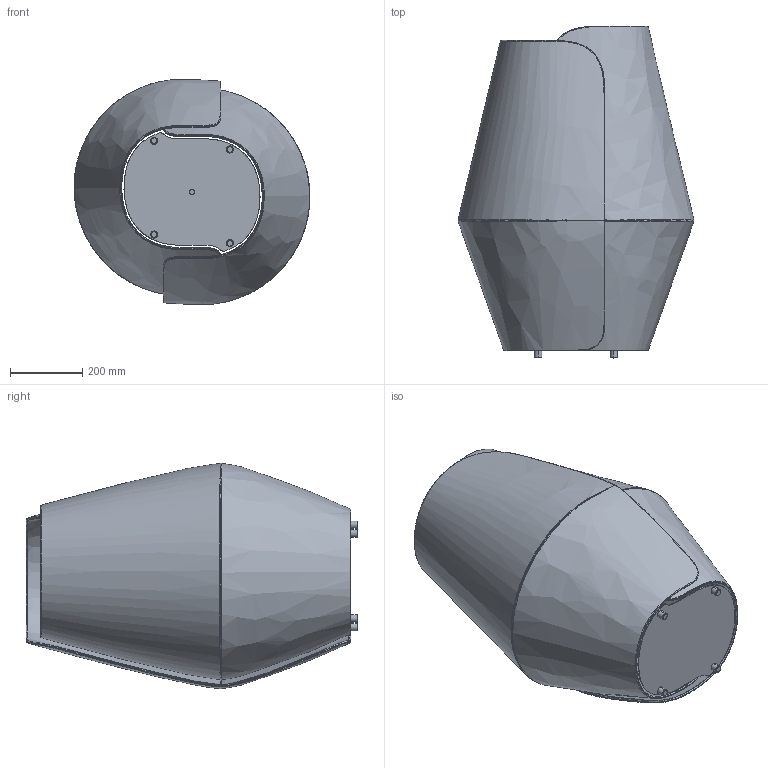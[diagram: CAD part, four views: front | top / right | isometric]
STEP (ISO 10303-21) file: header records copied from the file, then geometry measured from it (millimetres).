
FILE_DESCRIPTION (( 'STEP AP203' ), '1' );
FILE_NAME ('Volute - 900 Floor Lamp.STEP', '2023-03-30T22:55:06', ( '' ), ( '' ), 'SwSTEP 2.0', 'SolidWorks 2017', '' );
FILE_SCHEMA (( 'CONFIG_CONTROL_DESIGN' ));
Products named in the file (1): Volute - 900 Floor Lamp
Bounding box: 654.15 x 920 x 624.96 mm (x, y, z)
Volume: 9512646.8 mm3; surface area: 3809643.7 mm2
Topology: 5 solids, 5 shells, 190 faces, 468 edges, 286 vertices
Faces by surface type: bspline 113, plane 31, cylinder 26, torus 18, sphere 2
Entity records: 88134 total; most frequent: CARTESIAN_POINT 84586, ORIENTED_EDGE 914, EDGE_CURVE 457, DIRECTION 410, B_SPLINE_CURVE_WITH_KNOTS 298, VERTEX_POINT 283, EDGE_LOOP 196, ADVANCED_FACE 190
